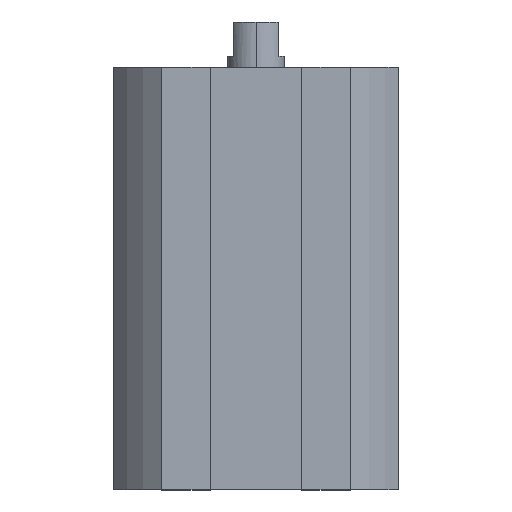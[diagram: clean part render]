
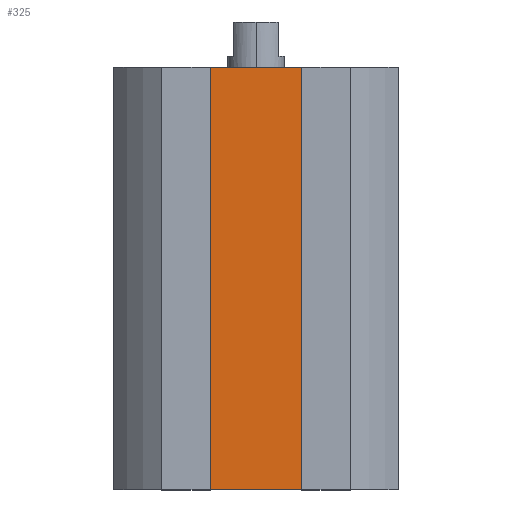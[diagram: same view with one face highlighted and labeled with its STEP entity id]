
A CAD part, top view. The second image highlights one B-rep face of the part: STEP entity #325.
In plain terms, the highlighted planar face has unit normal (0, 0, 1).
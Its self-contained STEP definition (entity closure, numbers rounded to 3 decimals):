
#12 = AXIS2_PLACEMENT_3D ( 'NONE', #812, #622, #1647 ) ;
#137 = LINE ( 'NONE', #139, #1629 ) ;
#139 = CARTESIAN_POINT ( 'NONE',  ( 4., -37., 7.8 ) ) ;
#145 = DIRECTION ( 'NONE',  ( 0., 1., 0. ) ) ;
#167 = CARTESIAN_POINT ( 'NONE',  ( 0., -37., 7.8 ) ) ;
#325 = ADVANCED_FACE ( 'NONE', ( #2121 ), #642, .T. ) ;
#328 = CARTESIAN_POINT ( 'NONE',  ( 4., -37., 7.8 ) ) ;
#341 = LINE ( 'NONE', #856, #1487 ) ;
#348 = EDGE_CURVE ( 'NONE', #429, #431, #341, .T. ) ;
#400 = ORIENTED_EDGE ( 'NONE', *, *, #1315, .F. ) ;
#417 = EDGE_CURVE ( 'NONE', #2004, #2141, #1846, .T. ) ;
#429 = VERTEX_POINT ( 'NONE', #674 ) ;
#431 = VERTEX_POINT ( 'NONE', #663 ) ;
#508 = DIRECTION ( 'NONE',  ( 1., 0., 0. ) ) ;
#622 = DIRECTION ( 'NONE',  ( 0., 0., 1. ) ) ;
#642 = PLANE ( 'NONE',  #12 ) ;
#663 = CARTESIAN_POINT ( 'NONE',  ( 4., 0., 7.8 ) ) ;
#674 = CARTESIAN_POINT ( 'NONE',  ( -4., 0., 7.8 ) ) ;
#773 = ORIENTED_EDGE ( 'NONE', *, *, #348, .F. ) ;
#812 = CARTESIAN_POINT ( 'NONE',  ( 0., -37., 7.8 ) ) ;
#856 = CARTESIAN_POINT ( 'NONE',  ( 0., 0., 7.8 ) ) ;
#933 = VECTOR ( 'NONE', #145, 1000. ) ;
#962 = DIRECTION ( 'NONE',  ( 0., 1., 0. ) ) ;
#1016 = ORIENTED_EDGE ( 'NONE', *, *, #417, .T. ) ;
#1062 = ORIENTED_EDGE ( 'NONE', *, *, #1952, .T. ) ;
#1112 = LINE ( 'NONE', #2191, #933 ) ;
#1315 = EDGE_CURVE ( 'NONE', #2004, #429, #1112, .T. ) ;
#1361 = DIRECTION ( 'NONE',  ( 1., 0., 0. ) ) ;
#1487 = VECTOR ( 'NONE', #1361, 1000. ) ;
#1558 = EDGE_LOOP ( 'NONE', ( #773, #400, #1016, #1062 ) ) ;
#1620 = VECTOR ( 'NONE', #508, 1000. ) ;
#1629 = VECTOR ( 'NONE', #962, 1000. ) ;
#1647 = DIRECTION ( 'NONE',  ( 1., 0., 0. ) ) ;
#1846 = LINE ( 'NONE', #167, #1620 ) ;
#1952 = EDGE_CURVE ( 'NONE', #2141, #431, #137, .T. ) ;
#2004 = VERTEX_POINT ( 'NONE', #2027 ) ;
#2027 = CARTESIAN_POINT ( 'NONE',  ( -4., -37., 7.8 ) ) ;
#2121 = FACE_OUTER_BOUND ( 'NONE', #1558, .T. ) ;
#2141 = VERTEX_POINT ( 'NONE', #328 ) ;
#2191 = CARTESIAN_POINT ( 'NONE',  ( -4., -37., 7.8 ) ) ;
